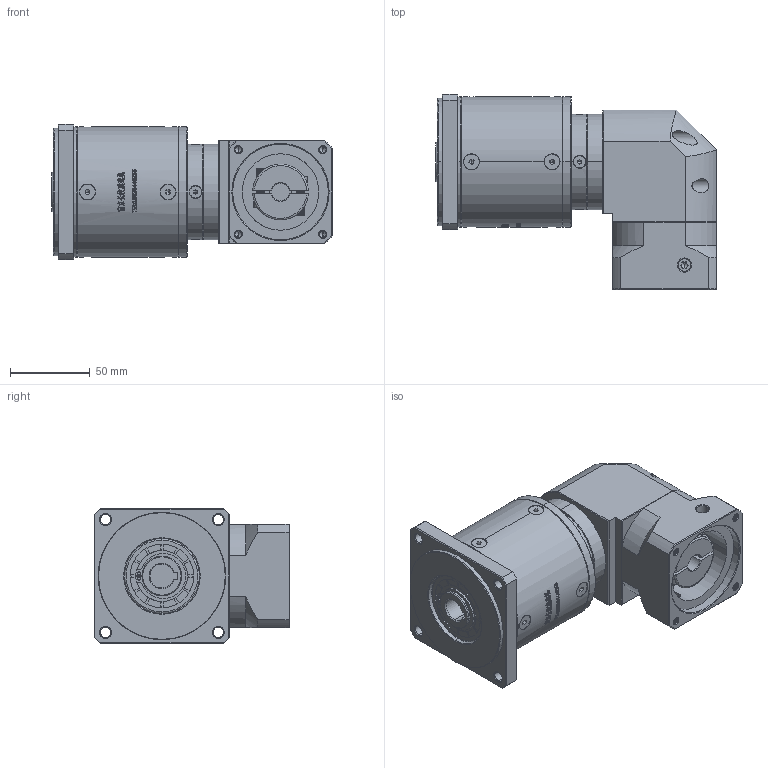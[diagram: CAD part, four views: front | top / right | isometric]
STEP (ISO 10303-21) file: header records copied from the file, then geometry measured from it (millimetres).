
FILE_DESCRIPTION (( 'STEP AP214' ), '1' );
FILE_NAME ('ZFR80-K15-L3-11-60-75-M5.step', '2022-05-08T15:00:28', ( '' ), ( 'Microsoft' ), 'SwSTEP 2.0', 'SolidWorks 2016', '' );
FILE_SCHEMA (( 'AUTOMOTIVE_DESIGN' ));
Length unit declared in the file: millimetre
Products named in the file (1): ZFR80-K15-L3-11-60-75-M5
Bounding box: 176 x 122.7 x 85 mm (x, y, z)
Volume: 885886 mm3; surface area: 107710.4 mm2
Topology: 17 solids, 18 shells, 3028 faces, 8066 edges, 5194 vertices
Faces by surface type: plane 1594, bspline 610, cylinder 441, cone 375, torus 8
Entity records: 159789 total; most frequent: CARTESIAN_POINT 56317, ORIENTED_EDGE 16044, DIRECTION 12212, EDGE_CURVE 8022, VERTEX_POINT 5194, VECTOR 4944, LINE 4944, AXIS2_PLACEMENT_3D 3634
